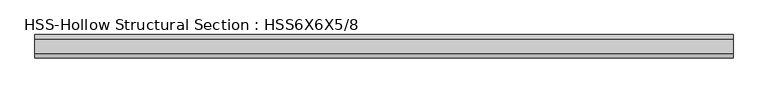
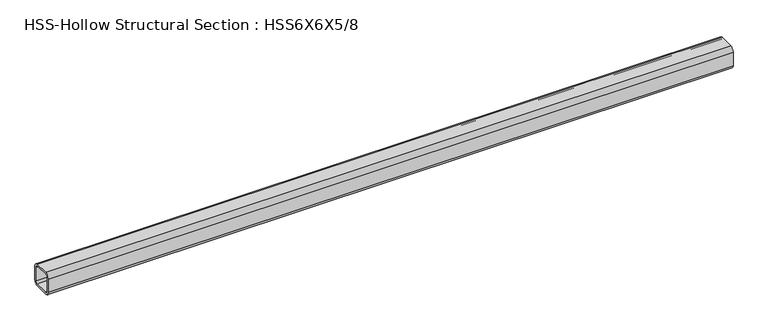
"""IFC4 building model written with IfcOpenShell, lengths in millimetres: beam geometry, HSS-Hollow Structural Section : HSS6X6X5/8."""

import ifcopenshell
import ifcopenshell.guid

model = None  # the IFC model being written
_history = None  # IfcOwnerHistory: only IFC2X3 demands one
_inside = {}  # id of a spatial element -> (the spatial element, [elements in it])
_under = {}  # id of a project, library or spatial element -> (it, [spatial elements below it])
_declared = {}  # id of a project -> (the project, [libraries it declares])
_typed = {}  # id of a type object -> (the type object, [elements of that type])
_made_of = {}  # id of a material, layer set ... -> (it, [elements and type objects made of it])


def new_model(schema):
    """Start an empty IFC model of exactly this schema.

    Asked for "IFC4X3", IfcOpenShell would pick the latest addendum, in which some entities
    have other attributes; the version numbers below select the first issue.
    IFC2X3 requires an IfcOwnerHistory on every rooted entity: one is made here for all.
    """
    global model, _history
    if schema == "IFC4X3":
        model = ifcopenshell.file(schema_version=(4, 3, 0, 0))
    else:
        model = ifcopenshell.file(schema=schema)
    _inside.clear()
    _under.clear()
    _declared.clear()
    _typed.clear()
    _made_of.clear()
    _history = None
    if model.schema == "IFC2X3":
        org = make("IfcOrganization", Name="unknown")
        user = make(
            "IfcPersonAndOrganization",
            ThePerson=make("IfcPerson", FamilyName="unknown"),
            TheOrganization=org,
        )
        app = make(
            "IfcApplication",
            ApplicationDeveloper=org,
            Version="unknown",
            ApplicationFullName="unknown",
            ApplicationIdentifier="unknown",
        )
        _history = make(
            "IfcOwnerHistory",
            OwningUser=user,
            OwningApplication=app,
            ChangeAction="ADDED",
            CreationDate=0,
        )
    return model


def make(cls, **values):
    """One entity of the class cls with the attributes given. An attribute that is None is left unset."""
    return model.create_entity(
        cls, **{name: value for name, value in values.items() if value is not None}
    )


def rooted(cls, **values):
    """An entity with a GlobalId (a new one), such as an element, a storey or a relation."""
    return make(cls, GlobalId=ifcopenshell.guid.new(), OwnerHistory=_history, **values)


def si_unit(unit_type, name, prefix=None):
    """IfcSIUnit, for example si_unit("LENGTHUNIT", "METRE", prefix="MILLI")."""
    return make("IfcSIUnit", UnitType=unit_type, Prefix=prefix, Name=name)


def assignment(units):
    """IfcUnitAssignment: the units of a project."""
    return None if units is None else make("IfcUnitAssignment", Units=units)


def point(xyz):
    """IfcCartesianPoint."""
    return None if xyz is None else make("IfcCartesianPoint", Coordinates=xyz)


def direction(xyz):
    """IfcDirection."""
    return None if xyz is None else make("IfcDirection", DirectionRatios=xyz)


def frame(location, z_axis=None, x_axis=None):
    """IfcAxis2Placement3D, a coordinate frame: its origin and axes. An axis left out is left unset."""
    return make(
        "IfcAxis2Placement3D",
        Location=point(location),
        Axis=direction(z_axis),
        RefDirection=direction(x_axis),
    )


def frame_2d(location, x_axis=None):
    """IfcAxis2Placement2D, a coordinate frame in the plane: its origin and x axis."""
    return make(
        "IfcAxis2Placement2D", Location=point(location), RefDirection=direction(x_axis)
    )


def origin():
    """The frame at (0, 0, 0) with its axes left unset."""
    return frame((0.0, 0.0, 0.0))


def place(relative_to, where):
    """IfcLocalPlacement: puts the frame where relative to a parent placement (None: the world)."""
    return make(
        "IfcLocalPlacement", PlacementRelTo=relative_to, RelativePlacement=where
    )


def context(
    kind, dimensions, precision=None, world=None, true_north=None, identifier=None
):
    """IfcGeometricRepresentationContext, for example the 3D "Model" context."""
    return make(
        "IfcGeometricRepresentationContext",
        ContextIdentifier=identifier,
        ContextType=kind,
        CoordinateSpaceDimension=dimensions,
        Precision=precision,
        WorldCoordinateSystem=world,
        TrueNorth=true_north,
    )


def project(units=None, contexts=None):
    """IfcProject with its units and contexts."""
    return rooted(
        "IfcProject",
        Name="project",
        RepresentationContexts=contexts,
        UnitsInContext=assignment(units),
    )


def spatial(cls, under=None, at=None, **own):
    """A site, building, storey or space (cls), placed at a placement, below another one or the project."""
    s = rooted(cls, ObjectPlacement=at, **own)
    if under is not None:
        _under.setdefault(under.id(), (under, []))[1].append(s)
    return s


def polyline(points):
    """IfcPolyline through the points."""
    return make("IfcPolyline", Points=[point(p) for p in points])


def circle_curve(where, radius):
    """IfcCircle in the frame where."""
    return make("IfcCircle", Position=where, Radius=radius)


def trimmed(basis, trim1, trim2, sense, master):
    """IfcTrimmedCurve: the piece of a basis curve between two trims."""
    return make(
        "IfcTrimmedCurve",
        BasisCurve=basis,
        Trim1=trim1,
        Trim2=trim2,
        SenseAgreement=sense,
        MasterRepresentation=master,
    )


def segment(curve, same_sense, transition):
    """IfcCompositeCurveSegment."""
    return make(
        "IfcCompositeCurveSegment",
        Transition=transition,
        SameSense=same_sense,
        ParentCurve=curve,
    )


def composite_curve(segments, self_intersect=None):
    """IfcCompositeCurve: segments joined end to end."""
    return make("IfcCompositeCurve", Segments=segments, SelfIntersect=self_intersect)


def outline(outer, holes=None, kind="AREA"):
    """IfcArbitraryClosedProfileDef: a profile drawn as a closed curve; with holes, ...WithVoids."""
    if holes is None:
        return make("IfcArbitraryClosedProfileDef", ProfileType=kind, OuterCurve=outer)
    return make(
        "IfcArbitraryProfileDefWithVoids",
        ProfileType=kind,
        OuterCurve=outer,
        InnerCurves=holes,
    )


def extrude(swept, where, along, depth):
    """IfcExtrudedAreaSolid: the profile swept, set in the frame where, extruded along a direction by depth."""
    return make(
        "IfcExtrudedAreaSolid",
        SweptArea=swept,
        Position=where,
        ExtrudedDirection=direction(along),
        Depth=depth,
    )


def shape(context_of_items, identifier, shape_type, items):
    """IfcShapeRepresentation: the items that make up one representation, for example the "Body"."""
    return make(
        "IfcShapeRepresentation",
        ContextOfItems=context_of_items,
        RepresentationIdentifier=identifier,
        RepresentationType=shape_type,
        Items=items,
    )


def source(mapping_origin, context_of_items, identifier, shape_type, items):
    """IfcRepresentationMap: a shape defined once, which mapped items show again and again."""
    return make(
        "IfcRepresentationMap",
        MappingOrigin=mapping_origin,
        MappedRepresentation=shape(context_of_items, identifier, shape_type, items),
    )


def transform(
    local_origin,
    x_axis=None,
    y_axis=None,
    z_axis=None,
    scale=None,
    scale2=None,
    scale3=None,
    uniform=True,
):
    """IfcCartesianTransformationOperator3D, or its non-uniform kind. x_axis, y_axis, z_axis: its Axis1, 2, 3."""
    if uniform:
        return make(
            "IfcCartesianTransformationOperator3D",
            Axis1=direction(x_axis),
            Axis2=direction(y_axis),
            LocalOrigin=point(local_origin),
            Scale=scale,
            Axis3=direction(z_axis),
        )
    return make(
        "IfcCartesianTransformationOperator3DnonUniform",
        Axis1=direction(x_axis),
        Axis2=direction(y_axis),
        LocalOrigin=point(local_origin),
        Scale=scale,
        Axis3=direction(z_axis),
        Scale2=scale2,
        Scale3=scale3,
    )


def mapped(mapping_source, mapping_target):
    """IfcMappedItem: shows the shape of a source again, moved by a transform."""
    return make(
        "IfcMappedItem", MappingSource=mapping_source, MappingTarget=mapping_target
    )


def made_of(thing, what):
    """Note that an element or type object is made of a material, layer set ...; save() writes the relation."""
    if what is not None:
        _made_of.setdefault(what.id(), (what, []))[1].append(thing)
    return thing


def element(
    cls,
    number,
    at=None,
    inside=None,
    cuts=None,
    type_object=None,
    material=None,
    context=None,
    identifier="Body",
    shape_type=None,
    held_by="IfcProductDefinitionShape",
    body=None,
    shapes=None,
    **own,
):
    """One element of the class cls, such as IfcWall. Its Tag is "e" and its number.

    at: its placement. inside: the storey or other place that contains it. cuts: it is an
    opening in that element (IfcRelVoidsElement). A single representation is given by context,
    identifier, shape_type and body (its items); several are given by shapes. held_by: the class
    of the entity that holds the representations. save() writes the other relations.
    """
    e = rooted(cls, Tag="e%d" % number, ObjectPlacement=at, **own)
    if body is not None:
        shapes = [shape(context, identifier, shape_type, body)]
    if shapes is not None:
        e.Representation = make(held_by, Representations=shapes)
    if inside is not None:
        _inside.setdefault(inside.id(), (inside, []))[1].append(e)
    if cuts is not None:
        rooted(
            "IfcRelVoidsElement", RelatingBuildingElement=cuts, RelatedOpeningElement=e
        )
    if type_object is not None:
        _typed.setdefault(type_object.id(), (type_object, []))[1].append(e)
    return made_of(e, material)


def aggregate(whole, parts):
    """IfcRelAggregates: a whole, such as a stair, and the parts it consists of."""
    return rooted("IfcRelAggregates", RelatingObject=whole, RelatedObjects=parts)


def save(model, path):
    """Write the relations noted so far, then the file.

    IfcRelAggregates (storeys below a building ...), IfcRelContainedInSpatialStructure (elements
    in a storey), IfcRelDefinesByType, IfcRelAssociatesMaterial and IfcRelDeclares: one each for
    every whole, place, type object, material and project.
    """
    for whole, parts in _under.values():
        aggregate(whole, parts)
    for where, things in _inside.values():
        rooted(
            "IfcRelContainedInSpatialStructure",
            RelatedElements=things,
            RelatingStructure=where,
        )
    for kind, things in _typed.values():
        rooted("IfcRelDefinesByType", RelatedObjects=things, RelatingType=kind)
    for what, things in _made_of.values():
        rooted("IfcRelAssociatesMaterial", RelatedObjects=things, RelatingMaterial=what)
    for by, libraries in _declared.values():
        rooted("IfcRelDeclares", RelatingContext=by, RelatedDefinitions=libraries)
    model.write(path)


def hss_hollow_structural_section_hss6x6x5_8_4499a487(model_context):
    return source(origin(), model_context, "Body", "SweptSolid", [
        extrude(outline(composite_curve([segment(polyline([(76.2, 46.6852), (76.2, -46.6852)]), True, "CONTINUOUS"), segment(trimmed(circle_curve(frame_2d((46.6852, -46.6852)), 29.5148), [point((76.2, -46.6852))], [point((46.6852, -76.2))], False, "CARTESIAN"), True, "CONTINUOUS"), segment(polyline([(46.6852, -76.2), (-46.6852, -76.2)]), True, "CONTINUOUS"), segment(trimmed(circle_curve(frame_2d((-46.6852, -46.6852)), 29.5148), [point((-46.6852, -76.2))], [point((-76.2, -46.6852))], False, "CARTESIAN"), True, "CONTINUOUS"), segment(polyline([(-76.2, -46.6852), (-76.2, 46.6852)]), True, "CONTINUOUS"), segment(trimmed(circle_curve(frame_2d((-46.6852, 46.6852)), 29.5148), [point((-76.2, 46.6852))], [point((-46.6852, 76.2))], False, "CARTESIAN"), True, "CONTINUOUS"), segment(polyline([(-46.6852, 76.2), (46.6852, 76.2)]), True, "CONTINUOUS"), segment(trimmed(circle_curve(frame_2d((46.6852, 46.6852)), 29.5148), [point((46.6852, 76.2))], [point((76.2, 46.6852))], False, "CARTESIAN"), True, "CONTINUOUS")], self_intersect=False), holes=[composite_curve([segment(trimmed(circle_curve(frame_2d((-46.6852, 46.6852)), 14.7574), [point((-46.6852, 61.4426))], [point((-61.4426, 46.6852))], True, "CARTESIAN"), True, "CONTINUOUS"), segment(polyline([(-61.4426, 46.6852), (-61.4426, -46.6852)]), True, "CONTINUOUS"), segment(trimmed(circle_curve(frame_2d((-46.6852, -46.6852)), 14.7574), [point((-61.4426, -46.6852))], [point((-46.6852, -61.4426))], True, "CARTESIAN"), True, "CONTINUOUS"), segment(polyline([(-46.6852, -61.4426), (46.6852, -61.4426)]), True, "CONTINUOUS"), segment(trimmed(circle_curve(frame_2d((46.6852, -46.6852)), 14.7574), [point((46.6852, -61.4426))], [point((61.4426, -46.6852))], True, "CARTESIAN"), True, "CONTINUOUS"), segment(polyline([(61.4426, -46.6852), (61.4426, 46.6852)]), True, "CONTINUOUS"), segment(trimmed(circle_curve(frame_2d((46.6852, 46.6852)), 14.7574), [point((61.4426, 46.6852))], [point((46.6852, 61.4426))], True, "CARTESIAN"), True, "CONTINUOUS"), segment(polyline([(46.6852, 61.4426), (-46.6852, 61.4426)]), True, "CONTINUOUS")], self_intersect=False)]), frame((-2273.3, 0.0, 0.0), z_axis=(1.0, 0.0, 0.0), x_axis=(0.0, 1.0, 0.0)), (0.0, 0.0, 1.0), 4546.6),
    ])


if __name__ == "__main__":
    model = new_model("IFC4")
    model_context = context("Model", 3, world=origin())
    ifc_project = project(units=[si_unit("LENGTHUNIT", "METRE", prefix="MILLI")], contexts=[model_context])
    site = spatial("IfcSite", under=ifc_project)
    building = spatial("IfcBuilding", under=site)
    placement = place(None, origin())
    hss_hollow_structural_section_hss6x6x5_8_shape = hss_hollow_structural_section_hss6x6x5_8_4499a487(model_context)
    element("IfcBeam", 1, ObjectType="HSS-Hollow Structural Section : HSS6X6X5/8", at=placement, inside=building, context=model_context, shape_type="MappedRepresentation", body=[
        mapped(hss_hollow_structural_section_hss6x6x5_8_shape, transform((0.0, 0.0, 0.0), x_axis=(1.0, 0.0, 0.0), y_axis=(0.0, 1.0, 0.0), z_axis=(0.0, 0.0, 1.0))),
    ])
    save(model, "model.ifc")
